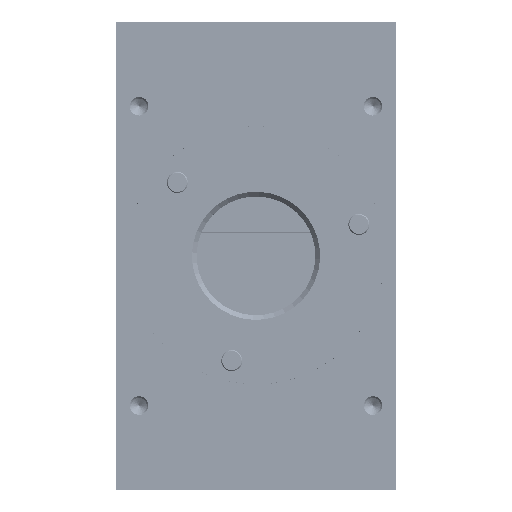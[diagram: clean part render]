
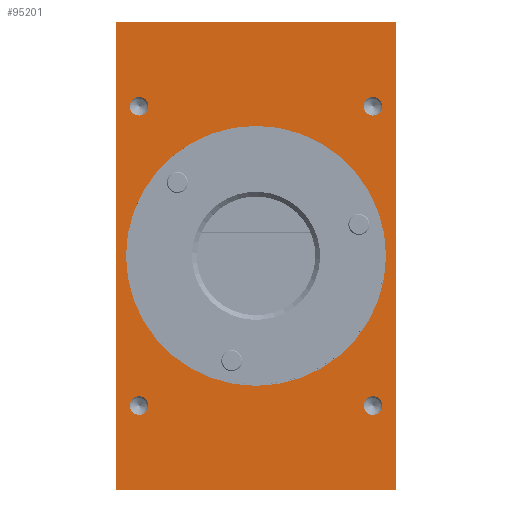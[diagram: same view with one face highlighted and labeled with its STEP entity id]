
A CAD part, top view. The second image highlights one B-rep face of the part: STEP entity #95201.
In plain terms, the highlighted planar face has unit normal (0, 0, 1).
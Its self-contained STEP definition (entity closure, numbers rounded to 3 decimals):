
#677 = CARTESIAN_POINT ( 'NONE',  ( 0., 0., 0. ) ) ;
#3825 = ORIENTED_EDGE ( 'NONE', *, *, #284374, .T. ) ;
#3834 = EDGE_LOOP ( 'NONE', ( #167209 ) ) ;
#3925 = DIRECTION ( 'NONE',  ( -1., 0., 0. ) ) ;
#26618 = DIRECTION ( 'NONE',  ( 1., 0., 0. ) ) ;
#33412 = CIRCLE ( 'NONE', #398877, 2. ) ;
#39285 = EDGE_CURVE ( 'NONE', #265345, #265345, #343051, .T. ) ;
#45490 = VECTOR ( 'NONE', #437123, 1000. ) ;
#51883 = VERTEX_POINT ( 'NONE', #249779 ) ;
#55170 = AXIS2_PLACEMENT_3D ( 'NONE', #439421, #437926, #88784 ) ;
#60114 = FACE_BOUND ( 'NONE', #249466, .T. ) ;
#62581 = VERTEX_POINT ( 'NONE', #63344 ) ;
#63344 = CARTESIAN_POINT ( 'NONE',  ( -30., 50., 0. ) ) ;
#70526 = ORIENTED_EDGE ( 'NONE', *, *, #39285, .F. ) ;
#88784 = DIRECTION ( 'NONE',  ( 1., 0., 0. ) ) ;
#90519 = ORIENTED_EDGE ( 'NONE', *, *, #298898, .F. ) ;
#91690 = CARTESIAN_POINT ( 'NONE',  ( 27., -32., 0. ) ) ;
#92066 = DIRECTION ( 'NONE',  ( 0., 0., 1. ) ) ;
#95201 = ADVANCED_FACE ( 'NONE', ( #60114, #413088, #320814, #168694, #228397, #206642 ), #420032, .F. ) ;
#97679 = EDGE_LOOP ( 'NONE', ( #359810 ) ) ;
#114175 = AXIS2_PLACEMENT_3D ( 'NONE', #677, #425733, #325528 ) ;
#116657 = VERTEX_POINT ( 'NONE', #305469 ) ;
#121339 = CIRCLE ( 'NONE', #135138, 2. ) ;
#122536 = CARTESIAN_POINT ( 'NONE',  ( 30., -50., 0. ) ) ;
#131024 = LINE ( 'NONE', #122536, #419046 ) ;
#135138 = AXIS2_PLACEMENT_3D ( 'NONE', #404584, #260462, #196692 ) ;
#137916 = LINE ( 'NONE', #402176, #45490 ) ;
#139990 = CARTESIAN_POINT ( 'NONE',  ( 27., 32., 0. ) ) ;
#144578 = DIRECTION ( 'NONE',  ( 0., 0., 1. ) ) ;
#149230 = VERTEX_POINT ( 'NONE', #139990 ) ;
#151836 = LINE ( 'NONE', #338603, #396311 ) ;
#161498 = EDGE_CURVE ( 'NONE', #416118, #416118, #346955, .T. ) ;
#165745 = CARTESIAN_POINT ( 'NONE',  ( 30., 50., 0. ) ) ;
#167209 = ORIENTED_EDGE ( 'NONE', *, *, #425598, .F. ) ;
#168694 = FACE_BOUND ( 'NONE', #3834, .T. ) ;
#171841 = EDGE_CURVE ( 'NONE', #116657, #251087, #347029, .T. ) ;
#177111 = EDGE_LOOP ( 'NONE', ( #70526 ) ) ;
#196692 = DIRECTION ( 'NONE',  ( 1., 0., 0. ) ) ;
#206642 = FACE_OUTER_BOUND ( 'NONE', #368260, .T. ) ;
#209498 = CARTESIAN_POINT ( 'NONE',  ( -30., -50., 0. ) ) ;
#213676 = VERTEX_POINT ( 'NONE', #165745 ) ;
#228397 = FACE_BOUND ( 'NONE', #177111, .T. ) ;
#232964 = CIRCLE ( 'NONE', #360749, 2. ) ;
#248615 = EDGE_LOOP ( 'NONE', ( #90519 ) ) ;
#249466 = EDGE_LOOP ( 'NONE', ( #360731 ) ) ;
#249779 = CARTESIAN_POINT ( 'NONE',  ( -23., -32., 0. ) ) ;
#251087 = VERTEX_POINT ( 'NONE', #401117 ) ;
#254533 = VECTOR ( 'NONE', #315788, 1000. ) ;
#260462 = DIRECTION ( 'NONE',  ( 0., 0., 1. ) ) ;
#265345 = VERTEX_POINT ( 'NONE', #416059 ) ;
#278975 = CARTESIAN_POINT ( 'NONE',  ( 0., 0., 0. ) ) ;
#284374 = EDGE_CURVE ( 'NONE', #62581, #116657, #137916, .T. ) ;
#294685 = CARTESIAN_POINT ( 'NONE',  ( -23., 32., 0. ) ) ;
#295686 = VERTEX_POINT ( 'NONE', #294685 ) ;
#298898 = EDGE_CURVE ( 'NONE', #51883, #51883, #232964, .T. ) ;
#301629 = CARTESIAN_POINT ( 'NONE',  ( 25., 32., 0. ) ) ;
#305469 = CARTESIAN_POINT ( 'NONE',  ( -30., -50., 0. ) ) ;
#313222 = CARTESIAN_POINT ( 'NONE',  ( -25., -32., 0. ) ) ;
#315788 = DIRECTION ( 'NONE',  ( 1., 0., 0. ) ) ;
#317112 = ORIENTED_EDGE ( 'NONE', *, *, #362682, .T. ) ;
#320814 = FACE_BOUND ( 'NONE', #248615, .T. ) ;
#321711 = EDGE_CURVE ( 'NONE', #213676, #62581, #151836, .T. ) ;
#325528 = DIRECTION ( 'NONE',  ( 1., 0., 0. ) ) ;
#337111 = DIRECTION ( 'NONE',  ( -1., 0., 0. ) ) ;
#338603 = CARTESIAN_POINT ( 'NONE',  ( -30., 50., 0. ) ) ;
#343051 = CIRCLE ( 'NONE', #114175, 27.8 ) ;
#346955 = CIRCLE ( 'NONE', #55170, 2. ) ;
#347029 = LINE ( 'NONE', #209498, #254533 ) ;
#350364 = DIRECTION ( 'NONE',  ( 0., 0., -1. ) ) ;
#359810 = ORIENTED_EDGE ( 'NONE', *, *, #395905, .F. ) ;
#360731 = ORIENTED_EDGE ( 'NONE', *, *, #161498, .F. ) ;
#360749 = AXIS2_PLACEMENT_3D ( 'NONE', #313222, #144578, #387622 ) ;
#362682 = EDGE_CURVE ( 'NONE', #251087, #213676, #131024, .T. ) ;
#368260 = EDGE_LOOP ( 'NONE', ( #317112, #391711, #3825, #375579 ) ) ;
#375579 = ORIENTED_EDGE ( 'NONE', *, *, #171841, .T. ) ;
#387622 = DIRECTION ( 'NONE',  ( 1., 0., 0. ) ) ;
#391711 = ORIENTED_EDGE ( 'NONE', *, *, #321711, .T. ) ;
#395905 = EDGE_CURVE ( 'NONE', #149230, #149230, #33412, .T. ) ;
#396311 = VECTOR ( 'NONE', #337111, 1000. ) ;
#398877 = AXIS2_PLACEMENT_3D ( 'NONE', #301629, #92066, #26618 ) ;
#401117 = CARTESIAN_POINT ( 'NONE',  ( 30., -50., 0. ) ) ;
#402176 = CARTESIAN_POINT ( 'NONE',  ( -30., -50., 0. ) ) ;
#404584 = CARTESIAN_POINT ( 'NONE',  ( -25., 32., 0. ) ) ;
#407139 = AXIS2_PLACEMENT_3D ( 'NONE', #278975, #350364, #3925 ) ;
#413088 = FACE_BOUND ( 'NONE', #97679, .T. ) ;
#416059 = CARTESIAN_POINT ( 'NONE',  ( 27.8, 0., 0. ) ) ;
#416118 = VERTEX_POINT ( 'NONE', #91690 ) ;
#419046 = VECTOR ( 'NONE', #438281, 1000. ) ;
#420032 = PLANE ( 'NONE',  #407139 ) ;
#425598 = EDGE_CURVE ( 'NONE', #295686, #295686, #121339, .T. ) ;
#425733 = DIRECTION ( 'NONE',  ( 0., 0., 1. ) ) ;
#437123 = DIRECTION ( 'NONE',  ( 0., -1., 0. ) ) ;
#437926 = DIRECTION ( 'NONE',  ( 0., 0., 1. ) ) ;
#438281 = DIRECTION ( 'NONE',  ( 0., 1., 0. ) ) ;
#439421 = CARTESIAN_POINT ( 'NONE',  ( 25., -32., 0. ) ) ;
